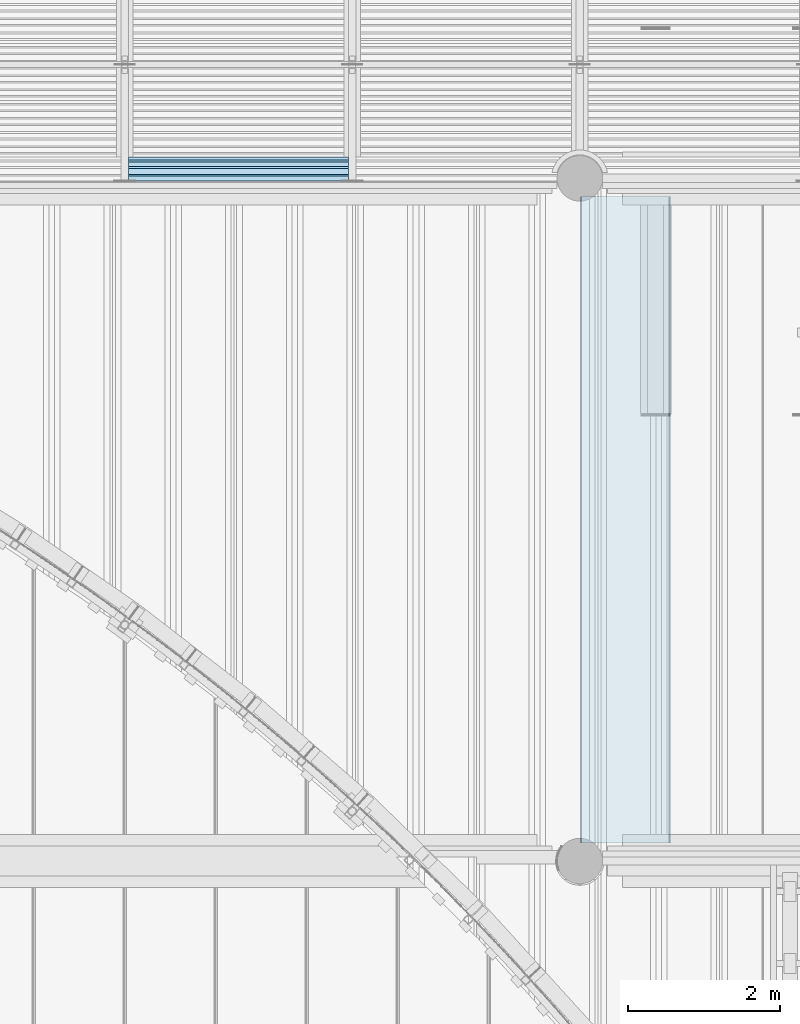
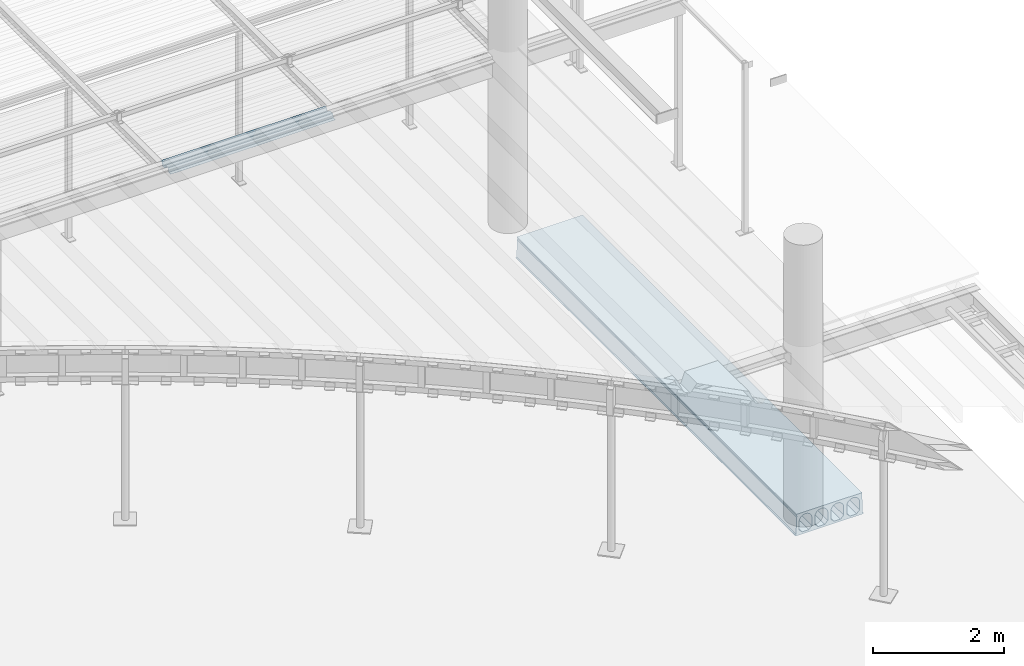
# One storey, part 68 of 98: 2 slabs.
"""IFC2X3 building model written with IfcOpenShell, lengths in millimetres."""

from ifc_helpers import new_model, entity, si_unit, converted_unit, derived_unit, direction, frame, origin_with_axes, place, context, subcontext, project, spatial, faceted_brep, material, type_object, element, save


model = new_model("IFC2X3")

# Units and contexts
model_context = context("Model", 3, precision=0.01, world=frame((0.0, 4.29681676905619e-09, 0.0)), true_north=direction((4.01073788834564e-13, 1.0)))
plan_context = context("Plan", 3, precision=0.01, world=frame((0.0, 4.29681676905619e-09, 0.0)), true_north=direction((4.01073788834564e-13, 1.0)))
body_context = subcontext(model_context, "Body", "Model", "MODEL_VIEW")
ifc_project = project(units=[converted_unit("PLANEANGLEUNIT", "DEGREE", entity("IfcPositiveLengthMeasure", 0.0174532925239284), si_unit("PLANEANGLEUNIT", "RADIAN"), dimensions=[0, 0, 0, 0, 0, 0, 0]), si_unit("AREAUNIT", "SQUARE_METRE"), si_unit("LENGTHUNIT", "METRE", prefix="MILLI"), si_unit("MASSUNIT", "GRAM", prefix="KILO"), si_unit("POWERUNIT", "WATT"), si_unit("PRESSUREUNIT", "PASCAL"), si_unit("FORCEUNIT", "NEWTON", prefix="KILO"), si_unit("ELECTRICCURRENTUNIT", "AMPERE"), si_unit("THERMODYNAMICTEMPERATUREUNIT", "DEGREE_CELSIUS"), si_unit("TIMEUNIT", "SECOND"), si_unit("VOLUMEUNIT", "CUBIC_METRE"), derived_unit("LINEARVELOCITYUNIT", [(si_unit("LENGTHUNIT", "METRE"), 1), (si_unit("TIMEUNIT", "SECOND"), -1)]), derived_unit("VOLUMETRICFLOWRATEUNIT", [(si_unit("VOLUMEUNIT", "CUBIC_METRE"), 1), (si_unit("TIMEUNIT", "SECOND"), -1)]), derived_unit("THERMALTRANSMITTANCEUNIT", [(si_unit("POWERUNIT", "WATT"), 1), (si_unit("THERMODYNAMICTEMPERATUREUNIT", "KELVIN"), -1), (si_unit("AREAUNIT", "SQUARE_METRE"), -1)])], contexts=[model_context, plan_context])

# Site, building, storey
site_placement = place(None, frame((0.0, -4.29681676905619e-09, 0.0), z_axis=(0.0, 0.0, 1.0), x_axis=(1.0, 0.0, 0.0)))
site = spatial("IfcSite", under=ifc_project, at=site_placement, Name="Gardermoen", CompositionType="ELEMENT")
building_placement = place(site_placement, frame((0.0, 4.29681676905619e-09, 0.0), z_axis=(0.0, 0.0, 1.0), x_axis=(1.0, 0.0, 0.0)))
building = spatial("IfcBuilding", under=site, at=building_placement, Name="TS", CompositionType="ELEMENT")
storey_placement = place(building_placement, origin_with_axes())
storey = spatial("IfcBuildingStorey", under=building, at=storey_placement, Name="D", CompositionType="ELEMENT", Elevation=0.0)

# Slabs
ifc_material_1 = material(Name="CONCRETE/C45/55")
slab_type_1 = type_object("IfcSlabType", Name="HD400", PredefinedType="NOTDEFINED")
slab_1_placement = place(storey_placement, frame((529599.999766, 405739.995625, 203600.0), z_axis=(0.0, 0.0, 1.0), x_axis=(0.0, 1.0, 0.0)))
element("IfcSlab", 1, at=slab_1_placement, inside=storey, type_object=slab_type_1, material=ifc_material_1, Name="HULLDEKKE", ObjectType="HD400", PredefinedType="FLOOR", context=body_context, shape_type="Brep", body=[
    faceted_brep([(0.0, 600.0, -190.0), (0.0, 600.0, -180.0), (8520.00875000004, 600.0, -180.0), (8520.00875000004, 600.0, -190.0), (0.0, 585.0, -170.0), (8520.00875000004, 585.0, -170.0), (0.0, 577.5, 145.0), (8520.00875000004, 577.5, 145.0), (0.0, 570.0, 160.0), (8520.00875000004, 570.0, 160.0), (0.0, 577.5, 175.0), (8520.00875000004, 577.5, 175.0), (0.0, 577.5, 200.0), (8520.00875000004, 577.5, 200.0), (0.0, -577.5, 200.0), (8520.00875000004, -577.5, 200.0), (0.0, -577.5, 175.0), (8520.00875000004, -577.5, 175.0), (0.0, -570.0, 160.0), (8520.00875000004, -570.0, 160.0), (0.0, -577.5, 145.0), (8520.00875000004, -577.5, 145.0), (0.0, -585.0, -170.0), (8520.00875000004, -585.0, -170.0), (0.0, -600.0, -180.0), (8520.00875000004, -600.0, -180.0), (0.0, -600.0, -190.0), (8520.00875000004, -600.0, -190.0), (0.0, -583.380004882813, -200.0), (8520.00875000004, -583.380004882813, -200.0), (0.0, 583.380004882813, -200.0), (8520.00875000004, 583.380004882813, -200.0), (0.0, -362.5, -160.0), (0.0, -477.5, -160.0), (8520.00875000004, -477.5, -160.0), (8520.00875000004, -362.5, -160.0), (0.0, -532.5, -105.0), (8520.00875000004, -532.5, -105.0), (0.0, -532.5, 47.5), (8520.00875000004, -532.5, 47.5), (0.0, -532.115755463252, 56.7901763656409), (8520.00875000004, -532.115755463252, 56.7901763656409), (0.0, -530.965646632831, 66.0168914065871), (8520.00875000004, -530.965646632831, 66.0168914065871), (0.0, -529.057529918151, 75.1171173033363), (8520.00875000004, -529.057529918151, 75.1171173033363), (0.0, -526.404439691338, 84.028690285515), (8520.00875000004, -526.404439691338, 84.028690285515), (0.0, -523.024499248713, 92.6907352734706), (8520.00875000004, -523.024499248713, 92.6907352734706), (0.0, -518.940797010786, 101.044081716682), (8520.00875000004, -518.940797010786, 101.044081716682), (0.0, -514.181228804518, 109.031667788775), (8520.00875000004, -514.181228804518, 109.031667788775), (0.0, -508.778307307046, 116.598930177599), (8520.00875000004, -508.778307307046, 116.598930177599), (0.0, -502.768939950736, 123.694176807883), (8520.00875000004, -502.768939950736, 123.694176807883), (0.0, -496.194176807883, 130.268939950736), (8520.00875000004, -496.194176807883, 130.268939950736), (0.0, -489.098930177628, 136.278307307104), (8520.00875000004, -489.098930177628, 136.278307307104), (0.0, -481.531667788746, 141.681228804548), (8520.00875000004, -481.531667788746, 141.681228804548), (0.0, -473.544081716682, 146.440797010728), (8520.00875000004, -473.544081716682, 146.440797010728), (0.0, -465.190735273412, 150.524499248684), (8520.00875000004, -465.190735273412, 150.524499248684), (0.0, -456.528690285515, 153.904439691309), (8520.00875000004, -456.528690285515, 153.904439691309), (0.0, -447.617117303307, 156.55752991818), (8520.00875000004, -447.617117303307, 156.55752991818), (0.0, -438.516891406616, 158.465646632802), (8520.00875000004, -438.516891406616, 158.465646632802), (0.0, -429.290176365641, 159.615755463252), (8520.00875000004, -429.290176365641, 159.615755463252), (0.0, -420.0, 160.0), (8520.00875000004, -420.0, 160.0), (0.0, -410.709823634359, 159.615755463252), (8520.00875000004, -410.709823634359, 159.615755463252), (0.0, -401.483108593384, 158.465646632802), (8520.00875000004, -401.483108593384, 158.465646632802), (0.0, -392.382882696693, 156.55752991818), (8520.00875000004, -392.382882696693, 156.55752991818), (0.0, -383.471309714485, 153.904439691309), (8520.00875000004, -383.471309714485, 153.904439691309), (0.0, -374.809264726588, 150.524499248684), (8520.00875000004, -374.809264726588, 150.524499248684), (0.0, -366.455918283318, 146.440797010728), (8520.00875000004, -366.455918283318, 146.440797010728), (0.0, -358.468332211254, 141.681228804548), (8520.00875000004, -358.468332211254, 141.681228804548), (0.0, -350.901069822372, 136.278307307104), (8520.00875000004, -350.901069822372, 136.278307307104), (0.0, -343.805823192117, 130.268939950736), (8520.00875000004, -343.805823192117, 130.268939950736), (0.0, -337.231060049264, 123.694176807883), (8520.00875000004, -337.231060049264, 123.694176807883), (0.0, -331.221692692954, 116.598930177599), (8520.00875000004, -331.221692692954, 116.598930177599), (0.0, -325.818771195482, 109.031667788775), (8520.00875000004, -325.818771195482, 109.031667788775), (0.0, -321.059202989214, 101.044081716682), (8520.00875000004, -321.059202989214, 101.044081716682), (0.0, -316.975500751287, 92.6907352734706), (8520.00875000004, -316.975500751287, 92.6907352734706), (0.0, -313.595560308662, 84.028690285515), (8520.00875000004, -313.595560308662, 84.028690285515), (0.0, -310.942470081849, 75.1171173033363), (8520.00875000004, -310.942470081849, 75.1171173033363), (0.0, -309.034353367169, 66.0168914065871), (8520.00875000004, -309.034353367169, 66.0168914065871), (0.0, -307.884244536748, 56.7901763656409), (8520.00875000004, -307.884244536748, 56.7901763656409), (0.0, -307.5, 47.5), (8520.00875000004, -307.5, 47.5), (0.0, -307.5, -105.0), (8520.00875000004, -307.5, -105.0), (0.0, -82.5, -160.0), (0.0, -197.5, -160.0), (8520.00875000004, -197.5, -160.0), (8520.00875000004, -82.5, -160.0), (0.0, -252.5, -105.0), (8520.00875000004, -252.5, -105.0), (0.0, -252.5, 47.5), (8520.00875000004, -252.5, 47.5), (0.0, -252.115755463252, 56.7901763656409), (8520.00875000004, -252.115755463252, 56.7901763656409), (0.0, -250.965646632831, 66.0168914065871), (8520.00875000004, -250.965646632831, 66.0168914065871), (0.0, -249.057529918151, 75.1171173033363), (8520.00875000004, -249.057529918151, 75.1171173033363), (0.0, -246.404439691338, 84.028690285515), (8520.00875000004, -246.404439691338, 84.028690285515), (0.0, -243.024499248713, 92.6907352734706), (8520.00875000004, -243.024499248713, 92.6907352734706), (0.0, -238.940797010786, 101.044081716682), (8520.00875000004, -238.940797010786, 101.044081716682), (0.0, -234.181228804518, 109.031667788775), (8520.00875000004, -234.181228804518, 109.031667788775), (0.0, -228.778307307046, 116.598930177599), (8520.00875000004, -228.778307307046, 116.598930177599), (0.0, -222.768939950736, 123.694176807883), (8520.00875000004, -222.768939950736, 123.694176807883), (0.0, -216.194176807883, 130.268939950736), (8520.00875000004, -216.194176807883, 130.268939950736), (0.0, -209.098930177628, 136.278307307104), (8520.00875000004, -209.098930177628, 136.278307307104), (0.0, -201.531667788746, 141.681228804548), (8520.00875000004, -201.531667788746, 141.681228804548), (0.0, -193.544081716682, 146.440797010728), (8520.00875000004, -193.544081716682, 146.440797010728), (0.0, -185.190735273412, 150.524499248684), (8520.00875000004, -185.190735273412, 150.524499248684), (0.0, -176.528690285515, 153.904439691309), (8520.00875000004, -176.528690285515, 153.904439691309), (0.0, -167.617117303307, 156.55752991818), (8520.00875000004, -167.617117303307, 156.55752991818), (0.0, -158.516891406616, 158.465646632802), (8520.00875000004, -158.516891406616, 158.465646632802), (0.0, -149.290176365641, 159.615755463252), (8520.00875000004, -149.290176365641, 159.615755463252), (0.0, -140.0, 160.0), (8520.00875000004, -140.0, 160.0), (0.0, -130.709823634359, 159.615755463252), (8520.00875000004, -130.709823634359, 159.615755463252), (0.0, -121.483108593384, 158.465646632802), (8520.00875000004, -121.483108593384, 158.465646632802), (0.0, -112.382882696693, 156.55752991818), (8520.00875000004, -112.382882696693, 156.55752991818), (0.0, -103.471309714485, 153.904439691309), (8520.00875000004, -103.471309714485, 153.904439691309), (0.0, -94.8092647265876, 150.524499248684), (8520.00875000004, -94.8092647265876, 150.524499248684), (0.0, -86.4559182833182, 146.440797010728), (8520.00875000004, -86.4559182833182, 146.440797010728), (0.0, -78.4683322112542, 141.681228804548), (8520.00875000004, -78.4683322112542, 141.681228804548), (0.0, -70.9010698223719, 136.278307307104), (8520.00875000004, -70.9010698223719, 136.278307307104), (0.0, -63.8058231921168, 130.268939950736), (8520.00875000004, -63.8058231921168, 130.268939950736), (0.0, -57.2310600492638, 123.694176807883), (8520.00875000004, -57.2310600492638, 123.694176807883), (0.0, -51.2216926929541, 116.598930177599), (8520.00875000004, -51.2216926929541, 116.598930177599), (0.0, -45.8187711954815, 109.031667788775), (8520.00875000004, -45.8187711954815, 109.031667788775), (0.0, -41.0592029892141, 101.044081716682), (8520.00875000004, -41.0592029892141, 101.044081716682), (0.0, -36.9755007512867, 92.6907352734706), (8520.00875000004, -36.9755007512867, 92.6907352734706), (0.0, -33.5955603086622, 84.028690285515), (8520.00875000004, -33.5955603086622, 84.028690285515), (0.0, -30.942470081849, 75.1171173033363), (8520.00875000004, -30.942470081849, 75.1171173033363), (0.0, -29.0343533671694, 66.0168914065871), (8520.00875000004, -29.0343533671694, 66.0168914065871), (0.0, -27.8842445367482, 56.7901763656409), (8520.00875000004, -27.8842445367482, 56.7901763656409), (0.0, -27.5, 47.5), (8520.00875000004, -27.5, 47.5), (0.0, -27.5, -105.0), (8520.00875000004, -27.5, -105.0), (0.0, 197.5, -160.0), (0.0, 82.5, -160.0), (8520.00875000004, 82.5, -160.0), (8520.00875000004, 197.5, -160.0), (0.0, 27.5, -105.0), (8520.00875000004, 27.5, -105.0), (0.0, 27.5, 47.5), (8520.00875000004, 27.5, 47.5), (0.0, 27.8842445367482, 56.7901763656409), (8520.00875000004, 27.8842445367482, 56.7901763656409), (0.0, 29.0343533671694, 66.0168914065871), (8520.00875000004, 29.0343533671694, 66.0168914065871), (0.0, 30.942470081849, 75.1171173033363), (8520.00875000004, 30.942470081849, 75.1171173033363), (0.0, 33.5955603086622, 84.028690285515), (8520.00875000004, 33.5955603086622, 84.028690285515), (0.0, 36.9755007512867, 92.6907352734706), (8520.00875000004, 36.9755007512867, 92.6907352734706), (0.0, 41.0592029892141, 101.044081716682), (8520.00875000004, 41.0592029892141, 101.044081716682), (0.0, 45.8187711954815, 109.031667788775), (8520.00875000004, 45.8187711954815, 109.031667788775), (0.0, 51.2216926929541, 116.598930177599), (8520.00875000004, 51.2216926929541, 116.598930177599), (0.0, 57.2310600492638, 123.694176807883), (8520.00875000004, 57.2310600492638, 123.694176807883), (0.0, 63.8058231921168, 130.268939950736), (8520.00875000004, 63.8058231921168, 130.268939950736), (0.0, 70.9010698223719, 136.278307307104), (8520.00875000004, 70.9010698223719, 136.278307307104), (0.0, 78.4683322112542, 141.681228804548), (8520.00875000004, 78.4683322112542, 141.681228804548), (0.0, 86.4559182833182, 146.440797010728), (8520.00875000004, 86.4559182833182, 146.440797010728), (0.0, 94.8092647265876, 150.524499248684), (8520.00875000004, 94.8092647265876, 150.524499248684), (0.0, 103.471309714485, 153.904439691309), (8520.00875000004, 103.471309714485, 153.904439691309), (0.0, 112.382882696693, 156.55752991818), (8520.00875000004, 112.382882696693, 156.55752991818), (0.0, 121.483108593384, 158.465646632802), (8520.00875000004, 121.483108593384, 158.465646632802), (0.0, 130.709823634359, 159.615755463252), (8520.00875000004, 130.709823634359, 159.615755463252), (0.0, 140.0, 160.0), (8520.00875000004, 140.0, 160.0), (0.0, 149.290176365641, 159.615755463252), (8520.00875000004, 149.290176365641, 159.615755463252), (0.0, 158.516891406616, 158.465646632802), (8520.00875000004, 158.516891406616, 158.465646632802), (0.0, 167.617117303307, 156.55752991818), (8520.00875000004, 167.617117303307, 156.55752991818), (0.0, 176.528690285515, 153.904439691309), (8520.00875000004, 176.528690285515, 153.904439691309), (0.0, 185.190735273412, 150.524499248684), (8520.00875000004, 185.190735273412, 150.524499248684), (0.0, 193.544081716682, 146.440797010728), (8520.00875000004, 193.544081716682, 146.440797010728), (0.0, 201.531667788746, 141.681228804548), (8520.00875000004, 201.531667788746, 141.681228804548), (0.0, 209.098930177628, 136.278307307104), (8520.00875000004, 209.098930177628, 136.278307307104), (0.0, 216.194176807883, 130.268939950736), (8520.00875000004, 216.194176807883, 130.268939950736), (0.0, 222.768939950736, 123.694176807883), (8520.00875000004, 222.768939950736, 123.694176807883), (0.0, 228.778307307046, 116.598930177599), (8520.00875000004, 228.778307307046, 116.598930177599), (0.0, 234.181228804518, 109.031667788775), (8520.00875000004, 234.181228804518, 109.031667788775), (0.0, 238.940797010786, 101.044081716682), (8520.00875000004, 238.940797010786, 101.044081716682), (0.0, 243.024499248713, 92.6907352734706), (8520.00875000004, 243.024499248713, 92.6907352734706), (0.0, 246.404439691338, 84.028690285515), (8520.00875000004, 246.404439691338, 84.028690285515), (0.0, 249.057529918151, 75.1171173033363), (8520.00875000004, 249.057529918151, 75.1171173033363), (0.0, 250.965646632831, 66.0168914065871), (8520.00875000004, 250.965646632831, 66.0168914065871), (0.0, 252.115755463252, 56.7901763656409), (8520.00875000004, 252.115755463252, 56.7901763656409), (0.0, 252.5, 47.5), (8520.00875000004, 252.5, 47.5), (0.0, 252.5, -105.0), (8520.00875000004, 252.5, -105.0), (0.0, 477.5, -160.0), (0.0, 362.5, -160.0), (8520.00875000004, 362.5, -160.0), (8520.00875000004, 477.5, -160.0), (0.0, 307.5, -105.0), (8520.00875000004, 307.5, -105.0), (0.0, 307.5, 47.5), (8520.00875000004, 307.5, 47.5), (0.0, 307.884244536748, 56.7901763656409), (8520.00875000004, 307.884244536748, 56.7901763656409), (0.0, 309.034353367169, 66.0168914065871), (8520.00875000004, 309.034353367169, 66.0168914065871), (0.0, 310.942470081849, 75.1171173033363), (8520.00875000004, 310.942470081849, 75.1171173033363), (0.0, 313.595560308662, 84.028690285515), (8520.00875000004, 313.595560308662, 84.028690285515), (0.0, 316.975500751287, 92.6907352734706), (8520.00875000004, 316.975500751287, 92.6907352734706), (0.0, 321.059202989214, 101.044081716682), (8520.00875000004, 321.059202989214, 101.044081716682), (0.0, 325.818771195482, 109.031667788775), (8520.00875000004, 325.818771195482, 109.031667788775), (0.0, 331.221692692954, 116.598930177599), (8520.00875000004, 331.221692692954, 116.598930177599), (0.0, 337.231060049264, 123.694176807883), (8520.00875000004, 337.231060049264, 123.694176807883), (0.0, 343.805823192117, 130.268939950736), (8520.00875000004, 343.805823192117, 130.268939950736), (0.0, 350.901069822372, 136.278307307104), (8520.00875000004, 350.901069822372, 136.278307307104), (0.0, 358.468332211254, 141.681228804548), (8520.00875000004, 358.468332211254, 141.681228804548), (0.0, 366.455918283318, 146.440797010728), (8520.00875000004, 366.455918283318, 146.440797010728), (0.0, 374.809264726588, 150.524499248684), (8520.00875000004, 374.809264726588, 150.524499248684), (0.0, 383.471309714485, 153.904439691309), (8520.00875000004, 383.471309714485, 153.904439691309), (0.0, 392.382882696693, 156.55752991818), (8520.00875000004, 392.382882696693, 156.55752991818), (0.0, 401.483108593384, 158.465646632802), (8520.00875000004, 401.483108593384, 158.465646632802), (0.0, 410.709823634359, 159.615755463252), (8520.00875000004, 410.709823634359, 159.615755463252), (0.0, 420.0, 160.0), (8520.00875000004, 420.0, 160.0), (0.0, 429.290176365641, 159.615755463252), (8520.00875000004, 429.290176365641, 159.615755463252), (0.0, 438.516891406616, 158.465646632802), (8520.00875000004, 438.516891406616, 158.465646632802), (0.0, 447.617117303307, 156.55752991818), (8520.00875000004, 447.617117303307, 156.55752991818), (0.0, 456.528690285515, 153.904439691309), (8520.00875000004, 456.528690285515, 153.904439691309), (0.0, 465.190735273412, 150.524499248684), (8520.00875000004, 465.190735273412, 150.524499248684), (0.0, 473.544081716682, 146.440797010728), (8520.00875000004, 473.544081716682, 146.440797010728), (0.0, 481.531667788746, 141.681228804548), (8520.00875000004, 481.531667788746, 141.681228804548), (0.0, 489.098930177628, 136.278307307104), (8520.00875000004, 489.098930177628, 136.278307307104), (0.0, 496.194176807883, 130.268939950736), (8520.00875000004, 496.194176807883, 130.268939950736), (0.0, 502.768939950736, 123.694176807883), (8520.00875000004, 502.768939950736, 123.694176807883), (0.0, 508.778307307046, 116.598930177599), (8520.00875000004, 508.778307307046, 116.598930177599), (0.0, 514.181228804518, 109.031667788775), (8520.00875000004, 514.181228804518, 109.031667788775), (0.0, 518.940797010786, 101.044081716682), (8520.00875000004, 518.940797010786, 101.044081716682), (0.0, 523.024499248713, 92.6907352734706), (8520.00875000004, 523.024499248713, 92.6907352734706), (0.0, 526.404439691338, 84.028690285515), (8520.00875000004, 526.404439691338, 84.028690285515), (0.0, 529.057529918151, 75.1171173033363), (8520.00875000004, 529.057529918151, 75.1171173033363), (0.0, 530.965646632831, 66.0168914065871), (8520.00875000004, 530.965646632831, 66.0168914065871), (0.0, 532.115755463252, 56.7901763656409), (8520.00875000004, 532.115755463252, 56.7901763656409), (0.0, 532.5, 47.5), (8520.00875000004, 532.5, 47.5), (0.0, 532.5, -105.0), (8520.00875000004, 532.5, -105.0)], [[[0, 1, 2, 3]], [[1, 4, 5, 2]], [[4, 6, 7, 5]], [[6, 8, 9, 7]], [[8, 10, 11, 9]], [[10, 12, 13, 11]], [[12, 14, 15, 13]], [[14, 16, 17, 15]], [[16, 18, 19, 17]], [[18, 20, 21, 19]], [[20, 22, 23, 21]], [[22, 24, 25, 23]], [[24, 26, 27, 25]], [[26, 28, 29, 27]], [[28, 30, 31, 29]], [[30, 0, 3, 31]], [[32, 33, 34, 35]], [[33, 36, 37, 34]], [[36, 38, 39, 37]], [[38, 40, 41, 39]], [[40, 42, 43, 41]], [[42, 44, 45, 43]], [[44, 46, 47, 45]], [[46, 48, 49, 47]], [[48, 50, 51, 49]], [[50, 52, 53, 51]], [[52, 54, 55, 53]], [[54, 56, 57, 55]], [[56, 58, 59, 57]], [[58, 60, 61, 59]], [[60, 62, 63, 61]], [[62, 64, 65, 63]], [[64, 66, 67, 65]], [[66, 68, 69, 67]], [[68, 70, 71, 69]], [[70, 72, 73, 71]], [[72, 74, 75, 73]], [[74, 76, 77, 75]], [[76, 78, 79, 77]], [[78, 80, 81, 79]], [[80, 82, 83, 81]], [[82, 84, 85, 83]], [[84, 86, 87, 85]], [[86, 88, 89, 87]], [[88, 90, 91, 89]], [[90, 92, 93, 91]], [[92, 94, 95, 93]], [[94, 96, 97, 95]], [[96, 98, 99, 97]], [[98, 100, 101, 99]], [[100, 102, 103, 101]], [[102, 104, 105, 103]], [[104, 106, 107, 105]], [[106, 108, 109, 107]], [[108, 110, 111, 109]], [[110, 112, 113, 111]], [[112, 114, 115, 113]], [[114, 116, 117, 115]], [[116, 32, 35, 117]], [[118, 119, 120, 121]], [[119, 122, 123, 120]], [[122, 124, 125, 123]], [[124, 126, 127, 125]], [[126, 128, 129, 127]], [[128, 130, 131, 129]], [[130, 132, 133, 131]], [[132, 134, 135, 133]], [[134, 136, 137, 135]], [[136, 138, 139, 137]], [[138, 140, 141, 139]], [[140, 142, 143, 141]], [[142, 144, 145, 143]], [[144, 146, 147, 145]], [[146, 148, 149, 147]], [[148, 150, 151, 149]], [[150, 152, 153, 151]], [[152, 154, 155, 153]], [[154, 156, 157, 155]], [[156, 158, 159, 157]], [[158, 160, 161, 159]], [[160, 162, 163, 161]], [[162, 164, 165, 163]], [[164, 166, 167, 165]], [[166, 168, 169, 167]], [[168, 170, 171, 169]], [[170, 172, 173, 171]], [[172, 174, 175, 173]], [[174, 176, 177, 175]], [[176, 178, 179, 177]], [[178, 180, 181, 179]], [[180, 182, 183, 181]], [[182, 184, 185, 183]], [[184, 186, 187, 185]], [[186, 188, 189, 187]], [[188, 190, 191, 189]], [[190, 192, 193, 191]], [[192, 194, 195, 193]], [[194, 196, 197, 195]], [[196, 198, 199, 197]], [[198, 200, 201, 199]], [[200, 202, 203, 201]], [[202, 118, 121, 203]], [[204, 205, 206, 207]], [[205, 208, 209, 206]], [[208, 210, 211, 209]], [[210, 212, 213, 211]], [[212, 214, 215, 213]], [[214, 216, 217, 215]], [[216, 218, 219, 217]], [[218, 220, 221, 219]], [[220, 222, 223, 221]], [[222, 224, 225, 223]], [[224, 226, 227, 225]], [[226, 228, 229, 227]], [[228, 230, 231, 229]], [[230, 232, 233, 231]], [[232, 234, 235, 233]], [[234, 236, 237, 235]], [[236, 238, 239, 237]], [[238, 240, 241, 239]], [[240, 242, 243, 241]], [[242, 244, 245, 243]], [[244, 246, 247, 245]], [[246, 248, 249, 247]], [[248, 250, 251, 249]], [[250, 252, 253, 251]], [[252, 254, 255, 253]], [[254, 256, 257, 255]], [[256, 258, 259, 257]], [[258, 260, 261, 259]], [[260, 262, 263, 261]], [[262, 264, 265, 263]], [[264, 266, 267, 265]], [[266, 268, 269, 267]], [[268, 270, 271, 269]], [[270, 272, 273, 271]], [[272, 274, 275, 273]], [[274, 276, 277, 275]], [[276, 278, 279, 277]], [[278, 280, 281, 279]], [[280, 282, 283, 281]], [[282, 284, 285, 283]], [[284, 286, 287, 285]], [[286, 288, 289, 287]], [[288, 204, 207, 289]], [[290, 291, 292, 293]], [[291, 294, 295, 292]], [[294, 296, 297, 295]], [[296, 298, 299, 297]], [[298, 300, 301, 299]], [[300, 302, 303, 301]], [[302, 304, 305, 303]], [[304, 306, 307, 305]], [[306, 308, 309, 307]], [[308, 310, 311, 309]], [[310, 312, 313, 311]], [[312, 314, 315, 313]], [[314, 316, 317, 315]], [[316, 318, 319, 317]], [[318, 320, 321, 319]], [[320, 322, 323, 321]], [[322, 324, 325, 323]], [[324, 326, 327, 325]], [[326, 328, 329, 327]], [[328, 330, 331, 329]], [[330, 332, 333, 331]], [[332, 334, 335, 333]], [[334, 336, 337, 335]], [[336, 338, 339, 337]], [[338, 340, 341, 339]], [[340, 342, 343, 341]], [[342, 344, 345, 343]], [[344, 346, 347, 345]], [[346, 348, 349, 347]], [[348, 350, 351, 349]], [[350, 352, 353, 351]], [[352, 354, 355, 353]], [[354, 356, 357, 355]], [[356, 358, 359, 357]], [[358, 360, 361, 359]], [[360, 362, 363, 361]], [[362, 364, 365, 363]], [[364, 366, 367, 365]], [[366, 368, 369, 367]], [[368, 370, 371, 369]], [[370, 372, 373, 371]], [[372, 374, 375, 373]], [[374, 290, 293, 375]], [[5, 7, 9, 11, 13, 15, 17, 19, 21, 23, 25, 27, 29, 31, 3, 2], [295, 297, 299, 301, 303, 305, 307, 309, 311, 313, 315, 317, 319, 321, 323, 325, 327, 329, 331, 333, 335, 337, 339, 341, 343, 345, 347, 349, 351, 353, 355, 357, 359, 361, 363, 365, 367, 369, 371, 373, 375, 293, 292], [209, 211, 213, 215, 217, 219, 221, 223, 225, 227, 229, 231, 233, 235, 237, 239, 241, 243, 245, 247, 249, 251, 253, 255, 257, 259, 261, 263, 265, 267, 269, 271, 273, 275, 277, 279, 281, 283, 285, 287, 289, 207, 206], [123, 125, 127, 129, 131, 133, 135, 137, 139, 141, 143, 145, 147, 149, 151, 153, 155, 157, 159, 161, 163, 165, 167, 169, 171, 173, 175, 177, 179, 181, 183, 185, 187, 189, 191, 193, 195, 197, 199, 201, 203, 121, 120], [37, 39, 41, 43, 45, 47, 49, 51, 53, 55, 57, 59, 61, 63, 65, 67, 69, 71, 73, 75, 77, 79, 81, 83, 85, 87, 89, 91, 93, 95, 97, 99, 101, 103, 105, 107, 109, 111, 113, 115, 117, 35, 34]], [[30, 28, 26, 24, 22, 20, 18, 16, 14, 12, 10, 8, 6, 4, 1, 0], [374, 372, 370, 368, 366, 364, 362, 360, 358, 356, 354, 352, 350, 348, 346, 344, 342, 340, 338, 336, 334, 332, 330, 328, 326, 324, 322, 320, 318, 316, 314, 312, 310, 308, 306, 304, 302, 300, 298, 296, 294, 291, 290], [288, 286, 284, 282, 280, 278, 276, 274, 272, 270, 268, 266, 264, 262, 260, 258, 256, 254, 252, 250, 248, 246, 244, 242, 240, 238, 236, 234, 232, 230, 228, 226, 224, 222, 220, 218, 216, 214, 212, 210, 208, 205, 204], [202, 200, 198, 196, 194, 192, 190, 188, 186, 184, 182, 180, 178, 176, 174, 172, 170, 168, 166, 164, 162, 160, 158, 156, 154, 152, 150, 148, 146, 144, 142, 140, 138, 136, 134, 132, 130, 128, 126, 124, 122, 119, 118], [116, 114, 112, 110, 108, 106, 104, 102, 100, 98, 96, 94, 92, 90, 88, 86, 84, 82, 80, 78, 76, 74, 72, 70, 68, 66, 64, 62, 60, 58, 56, 54, 52, 50, 48, 46, 44, 42, 40, 38, 36, 33, 32]]]),
])
ifc_material_2 = material(Name="STEEL/S355")
slab_type_2 = type_object("IfcSlabType", Name="PLANJA70", PredefinedType="NOTDEFINED")
slab_2_placement = place(storey_placement, frame((525950.000000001, 414404.996695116, 206958.849718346), z_axis=(0.0, 0.0, 1.0), x_axis=(-0.999999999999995, -9.99999902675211e-08, 0.0)))
element("IfcSlab", 2, at=slab_2_placement, inside=storey, type_object=slab_type_2, material=ifc_material_2, Name="STÅLTAK", ObjectType="PLANJA70", PredefinedType="FLOOR", context=body_context, shape_type="Brep", body=[
    faceted_brep([(0.0, -148.519882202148, 33.1500015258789), (0.0, -126.0, -34.1500015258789), (2900.00079747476, -126.0, -34.1500015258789), (2900.00079747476, -148.519882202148, 33.1500015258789), (0.0, -226.480117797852, 33.1500015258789), (2900.00079747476, -226.480117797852, 33.1500015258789), (0.0, -249.0, -34.1500015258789), (2900.00079747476, -249.0, -34.1500015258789), (0.0, -313.5, -34.1500015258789), (2900.00079747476, -313.5, -34.1500015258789), (0.0, -335.789306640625, 32.1500015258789), (2900.00079747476, -335.789306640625, 32.1500015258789), (0.0, -375.0, 32.1500015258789), (2900.00079747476, -375.0, 32.1500015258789), (0.0, -375.0, 33.1500015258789), (2900.00079747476, -375.0, 33.1500015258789), (0.0, -335.070495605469, 33.1500015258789), (2900.00079747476, -335.070495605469, 33.1500015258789), (0.0, -312.781188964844, -33.1500015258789), (2900.00079747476, -312.781188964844, -33.1500015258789), (0.0, -249.719879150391, -33.1500015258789), (2900.00079747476, -249.719879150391, -33.1500015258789), (0.0, -227.199996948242, 34.1500015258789), (2900.00079747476, -227.199996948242, 34.1500015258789), (0.0, -147.800003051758, 34.1500015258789), (2900.00079747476, -147.800003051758, 34.1500015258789), (0.0, -125.280120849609, -33.1500015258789), (2900.00079747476, -125.280120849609, -33.1500015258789), (2900.00079747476, -62.2198791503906, -33.1500015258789), (0.0, -62.2198791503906, -33.1500015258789), (0.0, -62.2198791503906, -34.1500015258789), (2900.00079747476, -62.2198791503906, -34.1500015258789)], [[[0, 1, 2, 3]], [[4, 0, 3, 5]], [[6, 4, 5, 7]], [[8, 6, 7, 9]], [[10, 8, 9, 11]], [[12, 10, 11, 13]], [[14, 12, 13, 15]], [[16, 14, 15, 17]], [[18, 16, 17, 19]], [[20, 18, 19, 21]], [[22, 20, 21, 23]], [[24, 22, 23, 25]], [[26, 24, 25, 27]], [[26, 27, 28, 29]], [[1, 0, 4, 6, 8, 10, 12, 14, 16, 18, 20, 22, 24, 26, 29, 30]], [[2, 1, 30, 31]], [[27, 25, 23, 21, 19, 17, 15, 13, 11, 9, 7, 5, 3, 2, 31, 28]], [[30, 29, 28, 31]]]),
])

save(model, "model.ifc")
